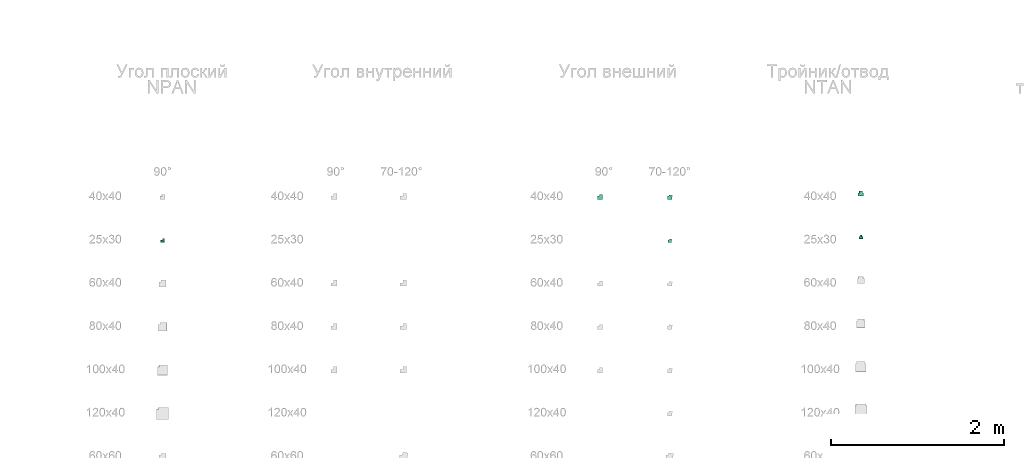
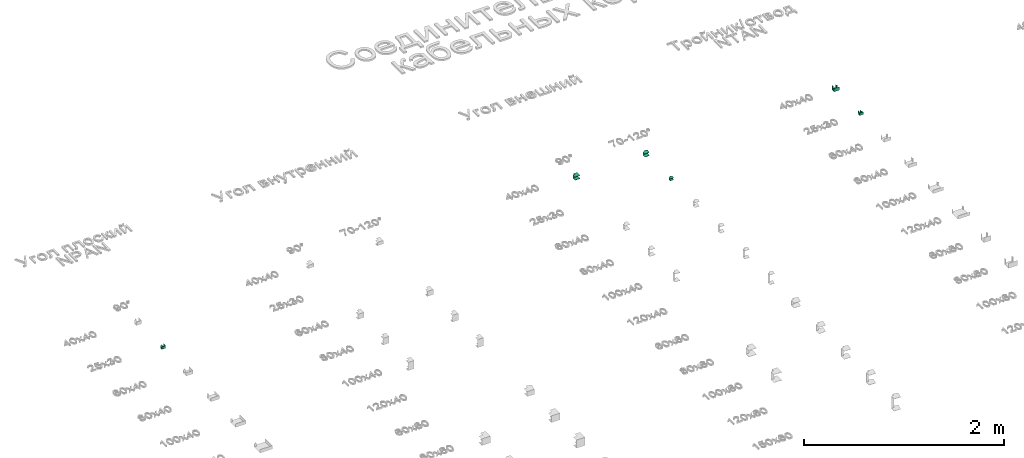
# One storey, part 9 of 71: 6 flow fittings.
"""IFC2X3 building model written with IfcOpenShell, lengths in millimetres."""

from ifc_helpers import new_model, entity, si_unit, converted_unit, derived_unit, direction, frame, origin, place, context, subcontext, project, spatial, faceted_brep, source, transform, mapped, material, type_object, type_shapes, element, save


model = new_model("IFC2X3")

# Units and contexts
model_context = context("Model", 3, precision=0.01, world=origin(), true_north=direction((6.12303176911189e-17, 1.0)))
body_context = subcontext(model_context, "Body", "Model", "MODEL_VIEW")
ifc_project = project(units=[si_unit("LENGTHUNIT", "METRE", prefix="MILLI"), si_unit("AREAUNIT", "SQUARE_METRE"), si_unit("VOLUMEUNIT", "CUBIC_METRE"), converted_unit("PLANEANGLEUNIT", "DEGREE", entity("IfcRatioMeasure", 0.0174532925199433), si_unit("PLANEANGLEUNIT", "RADIAN"), dimensions=[0, 0, 0, 0, 0, 0, 0]), si_unit("MASSUNIT", "GRAM", prefix="KILO"), derived_unit("MASSDENSITYUNIT", [(si_unit("MASSUNIT", "GRAM", prefix="KILO"), 1), (si_unit("LENGTHUNIT", "METRE"), -3)]), si_unit("TIMEUNIT", "SECOND"), si_unit("FREQUENCYUNIT", "HERTZ"), si_unit("THERMODYNAMICTEMPERATUREUNIT", "DEGREE_CELSIUS"), derived_unit("THERMALTRANSMITTANCEUNIT", [(si_unit("MASSUNIT", "GRAM", prefix="KILO"), 1), (si_unit("THERMODYNAMICTEMPERATUREUNIT", "KELVIN"), -1), (si_unit("TIMEUNIT", "SECOND"), -3)]), derived_unit("VOLUMETRICFLOWRATEUNIT", [(si_unit("LENGTHUNIT", "METRE"), 3), (si_unit("TIMEUNIT", "SECOND"), -1)]), si_unit("ELECTRICCURRENTUNIT", "AMPERE"), si_unit("ELECTRICVOLTAGEUNIT", "VOLT"), si_unit("POWERUNIT", "WATT"), si_unit("FORCEUNIT", "NEWTON", prefix="KILO"), si_unit("ILLUMINANCEUNIT", "LUX"), si_unit("LUMINOUSFLUXUNIT", "LUMEN"), si_unit("LUMINOUSINTENSITYUNIT", "CANDELA"), derived_unit("USERDEFINED", [(si_unit("MASSUNIT", "GRAM", prefix="KILO"), -1), (si_unit("LENGTHUNIT", "METRE"), -2), (si_unit("TIMEUNIT", "SECOND"), 3), (si_unit("LUMINOUSFLUXUNIT", "LUMEN"), 1)]), derived_unit("LINEARVELOCITYUNIT", [(si_unit("LENGTHUNIT", "METRE"), 1), (si_unit("TIMEUNIT", "SECOND"), -1)]), si_unit("PRESSUREUNIT", "PASCAL"), derived_unit("USERDEFINED", [(si_unit("LENGTHUNIT", "METRE"), -2), (si_unit("MASSUNIT", "GRAM", prefix="KILO"), 1), (si_unit("TIMEUNIT", "SECOND"), -2)])], contexts=[model_context])

# Site, building, storey
site_placement = place(None, origin())
site = spatial("IfcSite", under=ifc_project, at=site_placement, Name="Default", CompositionType="ELEMENT")
building_placement = place(site_placement, origin())
building = spatial("IfcBuilding", under=site, at=building_placement, Name="Наименование здания", CompositionType="ELEMENT")
storey_placement = place(building_placement, origin())
storey = spatial("IfcBuildingStorey", under=building, at=storey_placement, Name="Этаж 01", CompositionType="ELEMENT", Elevation=0.0)

# Flow fittings
ifc_material = material(Name="DKC_Пластик_Белый")
cable_carrier_fitting_type_1 = type_object("IfcCableCarrierFittingType", Name="Угол внешний_DKC", PredefinedType="NOTDEFINED", material=ifc_material)
shared_shape_1 = source(origin(), body_context, "Body", "Brep", [
    faceted_brep([(-40.0, 20.0, 20.0), (-40.0, 20.0, -20.0), (-40.0, -20.0, -20.0), (-40.0, -20.0, -17.4999999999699), (-40.0, 17.5000000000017, -17.4999999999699), (-40.0, 17.5000000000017, 17.5000000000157), (-40.0, -20.0, 17.5000000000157), (-40.0, -20.0, 20.0), (-20.0, 40.0, 20.0), (20.0, 40.0, 20.0), (20.0, 40.0, 17.5000000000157), (-17.5000000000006, 40.0, 17.5000000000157), (-17.5000000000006, 40.0, -17.4999999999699), (20.0, 40.0, -17.4999999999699), (20.0, 40.0, -20.0), (-20.0, 40.0, -20.0), (-20.0, 20.0, 20.0), (-20.0, 20.0, -20.0), (20.0, -20.0, -20.0), (20.0, -20.0, -17.4999999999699), (-17.5000000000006, 17.5000000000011, -17.4999999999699), (-17.5000000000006, 17.5000000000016, 17.5000000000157), (20.0, -20.0, 17.5000000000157), (20.0, -20.0, 20.0)], [[[0, 1, 2, 3, 4, 5, 6, 7]], [[8, 9, 10, 11, 12, 13, 14, 15]], [[1, 0, 16, 17]], [[2, 1, 17, 15, 14, 18]], [[3, 2, 18, 19]], [[4, 3, 19, 13, 12, 20]], [[5, 4, 20, 21]], [[6, 5, 21, 11, 10, 22]], [[7, 6, 22, 23]], [[0, 7, 23, 9, 8, 16]], [[17, 16, 8, 15]], [[19, 18, 14, 13]], [[21, 20, 12, 11]], [[23, 22, 10, 9]]]),
])
type_shapes(cable_carrier_fitting_type_1, [shared_shape_1])
flow_fitting_1_placement = place(storey_placement, frame((18870.2876691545, 3060.7911827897, 0.0)))
element("IfcFlowFitting", 1, at=flow_fitting_1_placement, inside=storey, type_object=cable_carrier_fitting_type_1, material=ifc_material, Name="КНС_УголВнешний_ILC_DKC:Угол внешний_DKC", ObjectType="Угол внешний_DKC", context=body_context, shape_type="MappedRepresentation", body=[
    mapped(shared_shape_1, transform((0.0, 0.0, 0.0), scale=1.0)),
])
cable_carrier_fitting_type_2 = type_object("IfcCableCarrierFittingType", Name="Тройник/отвод", PredefinedType="NOTDEFINED", material=ifc_material)
shared_shape_2 = source(origin(), body_context, "Body", "Brep", [
    faceted_brep([(30.0, 17.4999999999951, -17.4999999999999), (-30.0, 17.4999999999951, -17.5000000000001), (-30.0, -17.5000000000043, -17.5000000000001), (-17.4999999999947, -17.5000000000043, -17.5000000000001), (-17.4999999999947, -40.0, -17.5000000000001), (17.5000000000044, -40.0, -17.4999999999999), (17.5000000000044, -17.5000000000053, -17.4999999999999), (30.0, -17.5000000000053, -17.4999999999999), (30.0, 20.0, -20.0), (30.0, -20.0, -20.0), (20.0, -20.0, -20.0), (20.0, -40.0, -20.0), (-20.0, -40.0, -20.0), (-20.0, -20.0, -20.0), (-30.0, -20.0, -20.0), (-30.0, 20.0, -20.0), (30.0, 20.0, 20.0), (30.0, 17.4999999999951, 20.0), (30.0, -17.5000000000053, 20.0), (30.0, -20.0, 20.0), (20.0, -20.0, 20.0), (20.0, -40.0, 20.0), (17.5000000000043, -40.0, 20.0), (-17.4999999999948, -40.0, 20.0), (-20.0, -40.0, 20.0), (-20.0, -20.0, 20.0), (-30.0, -20.0, 20.0), (-30.0, -17.5000000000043, 20.0), (-30.0, 17.4999999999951, 20.0), (-30.0, 20.0, 20.0), (17.5000000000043, -17.5000000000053, 20.0), (-17.4999999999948, -17.5000000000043, 20.0)], [[[0, 1, 2, 3, 4, 5, 6, 7]], [[8, 9, 10, 11, 12, 13, 14, 15]], [[8, 16, 17, 0, 7, 18, 19, 9]], [[19, 20, 10, 9]], [[20, 21, 11, 10]], [[21, 22, 5, 4, 23, 24, 12, 11]], [[24, 25, 13, 12]], [[25, 26, 14, 13]], [[26, 27, 2, 1, 28, 29, 15, 14]], [[29, 16, 8, 15]], [[20, 19, 18, 30, 22, 21]], [[31, 3, 2, 27]], [[23, 4, 3, 31]], [[30, 6, 5, 22]], [[18, 7, 6, 30]], [[28, 1, 0, 17]], [[25, 24, 23, 31, 27, 26]], [[29, 28, 17, 16]]]),
])
type_shapes(cable_carrier_fitting_type_2, [shared_shape_2])
flow_fitting_2_placement = place(storey_placement, frame((21873.0522222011, 3100.7911827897, 0.0), z_axis=(0.0, 0.0, 1.0), x_axis=(-1.0, 0.0, 0.0)))
element("IfcFlowFitting", 2, at=flow_fitting_2_placement, inside=storey, type_object=cable_carrier_fitting_type_2, material=ifc_material, Name="КНС_ТройникNTAN_ILC_DKC:Тройник/отвод", ObjectType="Тройник/отвод", context=body_context, shape_type="MappedRepresentation", body=[
    mapped(shared_shape_2, transform((0.0, 0.0, 0.0), scale=1.0)),
])
cable_carrier_fitting_type_3 = type_object("IfcCableCarrierFittingType", Name="Угол плоский NPAN_DKC", PredefinedType="NOTDEFINED", material=ifc_material)
shared_shape_3 = source(origin(), body_context, "Body", "Brep", [
    faceted_brep([(-32.5000000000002, 12.5000000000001, -15.0), (-32.5000000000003, -12.4999999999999, -15.0), (-32.5000000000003, -12.4999999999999, 15.0), (-32.5000000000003, -10.0, 15.0), (-32.5000000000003, -10.0, -12.4999999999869), (-32.5000000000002, 10.0, -12.4999999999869), (-32.5000000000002, 10.0, 15.0), (-32.5000000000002, 12.5000000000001, 15.0), (-12.5000000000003, 12.5, -15.0), (-12.4999999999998, 32.5, -15.0), (12.5000000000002, 32.4999999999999, -15.0), (12.5000000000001, -12.5000000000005, -15.0), (12.5000000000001, -12.5, 15.0), (12.5000000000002, 32.4999999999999, 15.0), (10.0, 32.4999999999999, 15.0), (10.0, -10.0, 15.0), (10.0, -10.0, -12.4999999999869), (10.0, 32.4999999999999, -12.4999999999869), (-10.0, 32.4999999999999, -12.4999999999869), (-10.0, 10.0, -12.4999999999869), (-10.0, 10.0, 15.0), (-10.0, 32.4999999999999, 15.0), (-12.4999999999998, 32.4999999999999, 15.0), (-12.4999999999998, 12.4999999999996, 15.0)], [[[0, 1, 2, 3, 4, 5, 6, 7]], [[1, 0, 8, 9, 10, 11]], [[2, 1, 11, 12]], [[3, 2, 12, 13, 14, 15]], [[4, 3, 15, 16]], [[5, 4, 16, 17, 18, 19]], [[6, 5, 19, 20]], [[7, 6, 20, 21, 22, 23]], [[0, 7, 23, 8]], [[9, 22, 21, 18, 17, 14, 13, 10]], [[12, 11, 10, 13]], [[16, 15, 14, 17]], [[20, 19, 18, 21]], [[8, 23, 22, 9]]]),
])
type_shapes(cable_carrier_fitting_type_3, [shared_shape_3])
flow_fitting_3_placement = place(storey_placement, frame((13813.1010063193, 2560.7911827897, 0.0)))
element("IfcFlowFitting", 3, at=flow_fitting_3_placement, inside=storey, type_object=cable_carrier_fitting_type_3, material=ifc_material, Name="КНС_УголПлоский NPAN_ILC_DKC:Угол плоский NPAN_DKC", ObjectType="Угол плоский NPAN_DKC", context=body_context, shape_type="MappedRepresentation", body=[
    mapped(shared_shape_3, transform((0.0, 0.0, 0.0), scale=1.0)),
])
cable_carrier_fitting_type_4 = type_object("IfcCableCarrierFittingType", Name="Угол внешний_DKC", PredefinedType="NOTDEFINED", material=ifc_material)
shared_shape_4 = source(origin(), body_context, "Body", "Brep", [
    faceted_brep([(-33.5639852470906, 20.0, 20.0), (-33.5639852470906, 20.0, -20.0), (-33.5639852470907, -20.0, -20.0), (-33.5639852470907, -20.0, -17.4999999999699), (-33.5639852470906, 17.5000000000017, -17.4999999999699), (-33.5639852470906, 17.5000000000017, 17.5000000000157), (-33.5639852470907, -20.0, 17.5000000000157), (-33.5639852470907, -20.0, 20.0), (-13.8678301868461, 36.5270364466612, 20.0), (25.5244799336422, 29.581109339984, 20.0), (25.5244799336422, 29.581109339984, 17.5000000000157), (-11.4058108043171, 36.0929160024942, 17.5000000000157), (-11.4058108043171, 36.0929160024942, -17.4999999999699), (25.5244799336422, 29.581109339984, -17.4999999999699), (25.5244799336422, 29.581109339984, -20.0), (-13.8678301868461, 36.5270364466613, -20.0), (-16.7819926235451, 20.0, 20.0), (-16.7819926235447, 20.0, -20.0), (16.7819926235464, -20.0, -20.0), (16.7819926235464, -20.0, -17.4999999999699), (-14.6842435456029, 17.5000000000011, -17.4999999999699), (-14.6842435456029, 17.5000000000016, 17.5000000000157), (16.7819926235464, -20.0, 17.5000000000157), (16.7819926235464, -20.0, 20.0)], [[[0, 1, 2, 3, 4, 5, 6, 7]], [[8, 9, 10, 11, 12, 13, 14, 15]], [[1, 0, 16, 17]], [[2, 1, 17, 15, 14, 18]], [[3, 2, 18, 19]], [[4, 3, 19, 13, 12, 20]], [[5, 4, 20, 21]], [[6, 5, 21, 11, 10, 22]], [[7, 6, 22, 23]], [[0, 7, 23, 9, 8, 16]], [[17, 16, 8, 15]], [[19, 18, 14, 13]], [[21, 20, 12, 11]], [[23, 22, 10, 9]]]),
])
type_shapes(cable_carrier_fitting_type_4, [shared_shape_4])
flow_fitting_4_placement = place(storey_placement, frame((19670.2876691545, 3060.7911827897, 0.0)))
element("IfcFlowFitting", 4, at=flow_fitting_4_placement, inside=storey, type_object=cable_carrier_fitting_type_4, material=ifc_material, Name="КНС_УголВнешний_ILC_DKC:Угол внешний_DKC", ObjectType="Угол внешний_DKC", context=body_context, shape_type="MappedRepresentation", body=[
    mapped(shared_shape_4, transform((0.0, 0.0, 0.0), scale=1.0)),
])
cable_carrier_fitting_type_5 = type_object("IfcCableCarrierFittingType", Name="Угол внешний_DKC", PredefinedType="NOTDEFINED", material=ifc_material)
shared_shape_5 = source(origin(), body_context, "Body", "Brep", [
    faceted_brep([(-25.1729889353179, 15.0, 12.5000000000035), (-25.1729889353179, 15.0, -12.4999999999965), (-25.1729889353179, -15.0, -12.4999999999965), (-25.1729889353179, -15.0, -10.0), (-25.1729889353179, 12.5000000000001, -10.0), (-25.1729889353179, 12.5000000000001, 10.0), (-25.1729889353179, -15.0, 10.0), (-25.1729889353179, -15.0, 12.5000000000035), (-10.4008726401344, 27.3952773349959, 12.5000000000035), (19.1433599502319, 22.185832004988, 12.5000000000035), (19.1433599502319, 22.185832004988, 10.0), (-7.93885325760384, 26.9611568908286, 10.0), (-7.93885325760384, 26.9611568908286, -10.0), (19.1433599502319, 22.185832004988, -10.0), (19.1433599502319, 22.185832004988, -12.4999999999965), (-10.4008726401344, 27.3952773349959, -12.4999999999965), (-12.5864944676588, 15.0, 12.5000000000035), (-12.5864944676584, 15.0, -12.4999999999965), (12.58649446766, -15.0, -12.4999999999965), (12.58649446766, -15.0, -10.0), (-10.4887453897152, 12.4999999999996, -10.0), (-10.4887453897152, 12.5, 10.0), (12.58649446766, -15.0, 10.0), (12.58649446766, -15.0, 12.5000000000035)], [[[0, 1, 2, 3, 4, 5, 6, 7]], [[8, 9, 10, 11, 12, 13, 14, 15]], [[1, 0, 16, 17]], [[2, 1, 17, 15, 14, 18]], [[3, 2, 18, 19]], [[4, 3, 19, 13, 12, 20]], [[5, 4, 20, 21]], [[6, 5, 21, 11, 10, 22]], [[7, 6, 22, 23]], [[0, 7, 23, 9, 8, 16]], [[17, 16, 8, 15]], [[19, 18, 14, 13]], [[21, 20, 12, 11]], [[23, 22, 10, 9]]]),
])
type_shapes(cable_carrier_fitting_type_5, [shared_shape_5])
flow_fitting_5_placement = place(storey_placement, frame((19670.2876691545, 2560.7911827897, 0.0)))
element("IfcFlowFitting", 5, at=flow_fitting_5_placement, inside=storey, type_object=cable_carrier_fitting_type_5, material=ifc_material, Name="КНС_УголВнешний_ILC_DKC:Угол внешний_DKC", ObjectType="Угол внешний_DKC", context=body_context, shape_type="MappedRepresentation", body=[
    mapped(shared_shape_5, transform((0.0, 0.0, 0.0), scale=1.0)),
])
cable_carrier_fitting_type_6 = type_object("IfcCableCarrierFittingType", Name="Тройник/отвод", PredefinedType="NOTDEFINED", material=ifc_material)
shared_shape_6 = source(origin(), body_context, "Body", "Brep", [
    faceted_brep([(22.5000000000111, -10.0, -12.4999999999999), (22.5000000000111, 10.0, -12.4999999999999), (10.0, 10.0, -12.5), (10.0, 32.5000000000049, -12.5), (-10.0, 32.5000000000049, -12.5), (-10.0, 10.0, -12.5), (-22.4999999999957, 10.0, -12.5000000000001), (-22.4999999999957, -10.0, -12.5000000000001), (22.5000000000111, -12.4999999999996, -15.0), (-22.4999999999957, -12.4999999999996, -15.0), (-22.4999999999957, 12.5000000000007, -15.0), (-12.4999999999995, 12.5000000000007, -15.0), (-12.4999999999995, 32.5000000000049, -15.0), (12.4999999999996, 32.5000000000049, -15.0), (12.4999999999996, 12.500000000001, -15.0), (22.5000000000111, 12.500000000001, -15.0), (22.5000000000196, 12.500000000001, 15.0), (22.5000000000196, 10.0, 15.0), (22.5000000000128, -10.0, 15.0), (22.5000000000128, -12.4999999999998, 15.0), (12.4999999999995, 12.5, 15.0), (12.4999999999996, 32.5000000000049, 15.0), (-12.4999999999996, 32.5000000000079, 15.0), (-10.0, 32.5000000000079, 15.0), (10.0, 32.5000000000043, 15.0), (-12.4999999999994, 12.5000000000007, 15.0), (-22.4999999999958, 12.5000000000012, 15.0), (-22.5000000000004, -12.4999999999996, 15.0), (-22.5000000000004, -10.0, 15.0), (-22.4999999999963, 10.0, 15.0), (-10.0, 10.0, 15.0), (10.0, 10.0, 15.0)], [[[0, 1, 2, 3, 4, 5, 6, 7]], [[8, 9, 10, 11, 12, 13, 14, 15]], [[8, 15, 16, 17, 1, 0, 18, 19]], [[16, 15, 14, 20]], [[20, 14, 13, 21]], [[21, 13, 12, 22, 23, 4, 3, 24]], [[22, 12, 11, 25]], [[25, 11, 10, 26]], [[26, 10, 9, 27, 28, 7, 6, 29]], [[27, 9, 8, 19]], [[27, 19, 18, 28]], [[30, 29, 6, 5]], [[23, 30, 5, 4]], [[31, 24, 3, 2]], [[17, 31, 2, 1]], [[28, 18, 0, 7]], [[20, 21, 24, 31, 17, 16]], [[25, 26, 29, 30, 23, 22]]]),
])
type_shapes(cable_carrier_fitting_type_6, [shared_shape_6])
flow_fitting_6_placement = place(storey_placement, frame((21873.0522222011, 2600.7911827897, 0.0)))
element("IfcFlowFitting", 6, at=flow_fitting_6_placement, inside=storey, type_object=cable_carrier_fitting_type_6, material=ifc_material, Name="КНС_ТройникNTAN_ILC_DKC:Тройник/отвод", ObjectType="Тройник/отвод", context=body_context, shape_type="MappedRepresentation", body=[
    mapped(shared_shape_6, transform((0.0, 0.0, 0.0), scale=1.0)),
])

save(model, "model.ifc")
